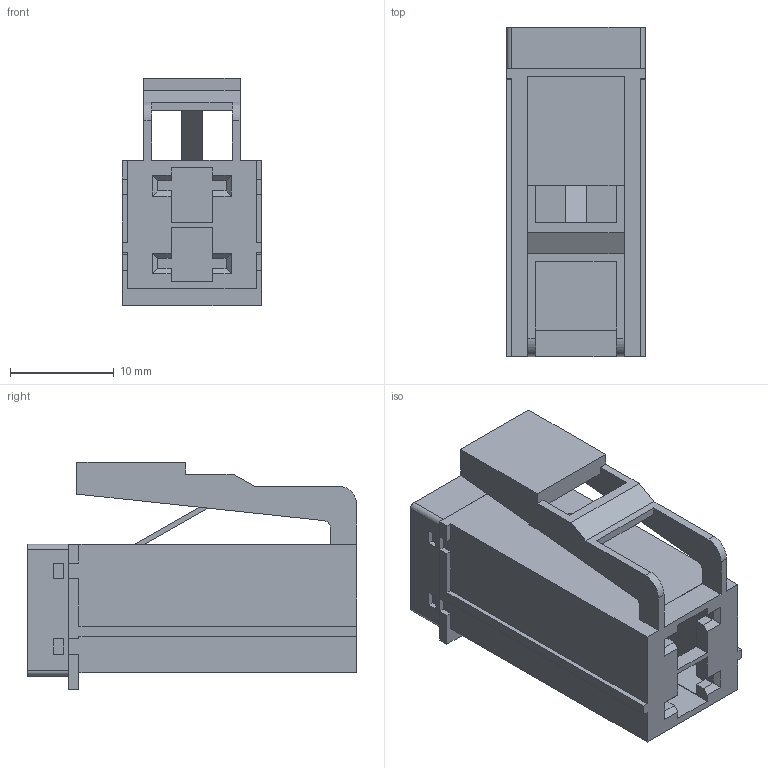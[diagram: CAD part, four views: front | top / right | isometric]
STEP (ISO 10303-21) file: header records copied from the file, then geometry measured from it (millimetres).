
FILE_DESCRIPTION(/* description */ (''),/* implementation_level */ '2;1');
FILE_NAME(/* name */ 'C:\Users\Hani\Desktop\work\TFLN\TFLN.stp',/* time_stamp */ '2022-02-18T13:21:41-08:00',/* author */ ('Hani'),/* organization */ (''),/* preprocessor_version */ 'ST-DEVELOPER v17',/* originating_system */ 'Autodesk Inventor 2019',/* authorisation */ '');
FILE_SCHEMA (('AUTOMOTIVE_DESIGN { 1 0 10303 214 3 1 1 }'));
Length unit declared in the file: millimetre
Products named in the file (1): TFLP
Bounding box: 13.43 x 31.79 x 21.91 mm (x, y, z)
Volume: 2150.7 mm3; surface area: 4243.1 mm2
Topology: 2 solids, 2 shells, 275 faces, 773 edges, 512 vertices
Faces by surface type: plane 200, bspline 67, cylinder 8
Entity records: 9159 total; most frequent: CARTESIAN_POINT 2432, ORIENTED_EDGE 1546, DIRECTION 1073, EDGE_CURVE 773, LINE 623, VECTOR 623, VERTEX_POINT 512, EDGE_LOOP 295
